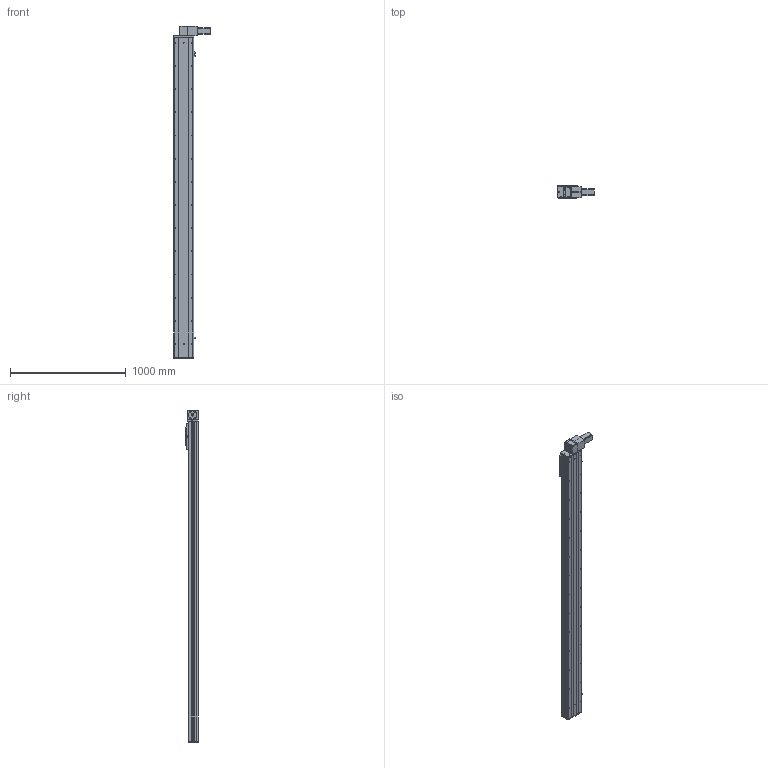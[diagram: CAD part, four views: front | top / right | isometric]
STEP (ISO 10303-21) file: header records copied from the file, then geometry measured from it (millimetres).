
FILE_DESCRIPTION (( 'STEP AP203' ), '1' );
FILE_NAME ('Y170CB-D105-S2450-BD-P400W.STEP', '2020-02-20T09:10:42', ( '微软用户' ), ( '微软中国' ), 'SwSTEP 2.0', 'SolidWorks 2017', '' );
FILE_SCHEMA (( 'CONFIG_CONTROL_DESIGN' ));
Length unit declared in the file: millimetre
Products named in the file (16): 70CB-詩湍--; san松下电机400不带刹车----; Y100-135俋离換覜ん--; 70CB-掛极-; Y170CB-陔俋离換覜結え---; --70CB --喘謫眊楊擘啣-; Y1埴倛裔; 70CB-耜裔啣-; 70B喘謫眊----; 70C--詩湍揤踡え-; 0B薊粣ん眊-400W--; 70CB--耜裔; Y170CB-D105-S2450-BD-P400W; 70C-雄赽釱-奻-; 0C--雄赽釱俋欶-170; B-源倛裔啣
Assembly tree (19 placements, depth 2):
  Y170CB-D105-S2450-BD-P400W
    B-源倛裔啣
    san松下电机400不带刹车----
    70CB-掛极-
    --70CB --喘謫眊楊擘啣-
    70CB-耜裔啣-  x2
    70C--詩湍揤踡え-  x2
    70CB--耜裔
    70C-雄赽釱-奻-
    0C--雄赽釱俋欶-170
    70CB-詩湍--
    Y100-135俋离換覜ん--  x3
    Y170CB-陔俋离換覜結え---
    Y1埴倛裔
    70B喘謫眊----
    0B薊粣ん眊-400W--
Bounding box: 313.5 x 107 x 2866 mm (x, y, z)
Volume: 12536351.5 mm3; surface area: 4394477 mm2
Topology: 19 solids, 19 shells, 976 faces, 2594 edges, 1720 vertices
Faces by surface type: cylinder 530, plane 422, cone 24
Entity records: 30763 total; most frequent: CARTESIAN_POINT 5746, DIRECTION 5007, ORIENTED_EDGE 4670, EDGE_CURVE 2335, AXIS2_PLACEMENT_3D 1861, VERTEX_POINT 1550, VECTOR 1285, LINE 1285
